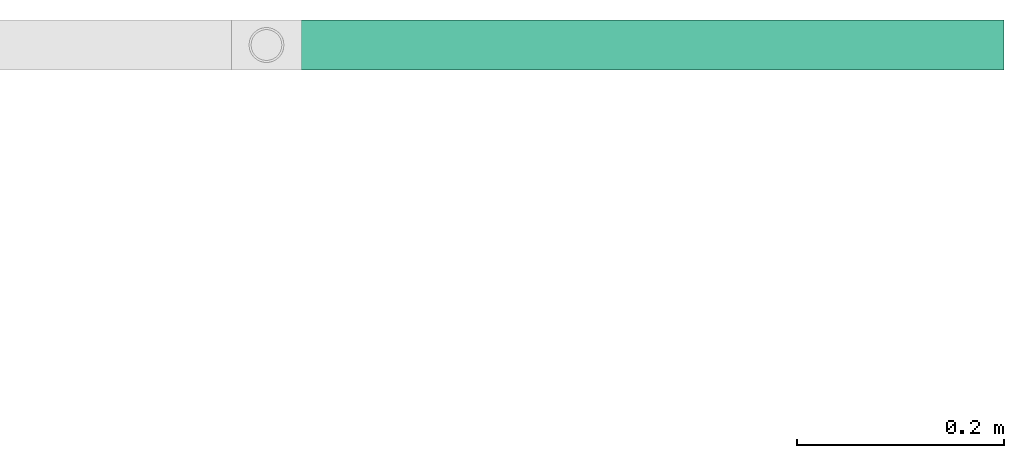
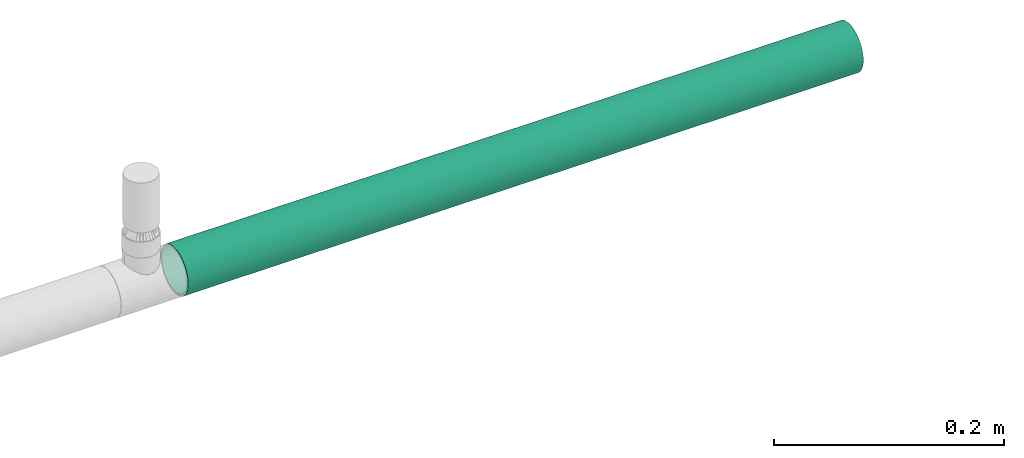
# One storey, part 14 of 14: 1 flow segment.
"""IFC2X3 building model written with IfcOpenShell, lengths in millimetres."""

from ifc_helpers import new_model, entity, si_unit, converted_unit, derived_unit, direction, frame, place, context, subcontext, project, spatial, faceted_brep, type_object, element, save


model = new_model("IFC2X3")

# Units and contexts
model_context = context("Model", 3, precision=0.01, world=frame((0.0, 4.29681676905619e-09, 0.0)), true_north=direction((4.01073788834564e-13, 1.0)))
plan_context = context("Plan", 3, precision=0.01, world=frame((0.0, 4.29681676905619e-09, 0.0)), true_north=direction((4.01073788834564e-13, 1.0)))
body_context = subcontext(model_context, "Body", "Model", "MODEL_VIEW")
ifc_project = project(units=[converted_unit("PLANEANGLEUNIT", "DEGREE", entity("IfcPositiveLengthMeasure", 0.0174532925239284), si_unit("PLANEANGLEUNIT", "RADIAN"), dimensions=[0, 0, 0, 0, 0, 0, 0]), si_unit("AREAUNIT", "SQUARE_METRE"), si_unit("LENGTHUNIT", "METRE", prefix="MILLI"), si_unit("MASSUNIT", "GRAM", prefix="KILO"), si_unit("POWERUNIT", "WATT"), si_unit("PRESSUREUNIT", "PASCAL", prefix="KILO"), si_unit("FORCEUNIT", "NEWTON", prefix="KILO"), si_unit("ELECTRICVOLTAGEUNIT", "VOLT"), si_unit("ELECTRICCURRENTUNIT", "AMPERE"), si_unit("THERMODYNAMICTEMPERATUREUNIT", "DEGREE_CELSIUS"), si_unit("TIMEUNIT", "SECOND"), si_unit("VOLUMEUNIT", "CUBIC_METRE"), derived_unit("LINEARVELOCITYUNIT", [(si_unit("LENGTHUNIT", "METRE"), 1), (si_unit("TIMEUNIT", "SECOND"), -1)]), derived_unit("VOLUMETRICFLOWRATEUNIT", [(si_unit("VOLUMEUNIT", "CUBIC_METRE"), 1), (si_unit("TIMEUNIT", "SECOND"), -1)]), derived_unit("THERMALTRANSMITTANCEUNIT", [(si_unit("POWERUNIT", "WATT"), 1), (si_unit("THERMODYNAMICTEMPERATUREUNIT", "KELVIN"), -1), (si_unit("AREAUNIT", "SQUARE_METRE"), -1)]), derived_unit("SOUNDPRESSUREUNIT", [(si_unit("PRESSUREUNIT", "PASCAL"), 1)])], contexts=[model_context, plan_context])

# Site, building, storey
site_placement = place(None, frame((0.0, -4.29681676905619e-09, 0.0), z_axis=(0.0, 0.0, 1.0), x_axis=(1.0, 0.0, 0.0)))
site = spatial("IfcSite", under=ifc_project, at=site_placement, CompositionType="ELEMENT")
building_placement = place(site_placement, frame((0.0, 4.29681676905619e-09, 0.0), z_axis=(0.0, 0.0, 1.0), x_axis=(1.0, 0.0, 0.0)))
building = spatial("IfcBuilding", under=site, at=building_placement, Name="mc-building", CompositionType="ELEMENT")
storey_placement = place(building_placement, frame((0.0, 0.0, 204000.0), z_axis=(0.0, 0.0, 1.0), x_axis=(1.0, 0.0, 0.0)))
storey = spatial("IfcBuildingStorey", under=building, at=storey_placement, Name="Nivå D", CompositionType="ELEMENT", Elevation=204000.0)

# Flow segment
pipe_segment_type = type_object("IfcPipeSegmentType", Name="Stålrør normaltykke", PredefinedType="RIGIDSEGMENT")
flow_segment_placement = place(storey_placement, frame((604175.9209, 576802.46783, 6055.58090999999), z_axis=(0.0, 0.0, 1.0), x_axis=(-1.0, 0.0, 0.0)))
element("IfcFlowSegment", 1, at=flow_segment_placement, inside=storey, type_object=pipe_segment_type, Name="Stålrør normaltykke", context=body_context, shape_type="Brep", body=[
    faceted_brep([(2402.9832714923, 21.7642513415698, -3.83762472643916), (2402.9832714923, 22.1, 0.0), (3082.4, 22.1, 0.0), (3082.4, 21.7642513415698, -3.83762472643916), (2402.9832714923, 20.7672069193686, -7.5586451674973), (3082.4, 20.7672069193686, -7.5586451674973), (2402.9832714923, 19.1391614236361, -11.05), (3082.4, 19.1391614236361, -11.05), (2402.9832714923, 16.9295821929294, -14.2056061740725), (3082.4, 16.9295821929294, -14.2056061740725), (2402.9832714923, 14.2056061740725, -16.9295821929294), (3082.4, 14.2056061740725, -16.9295821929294), (2402.9832714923, 11.05, -19.1391614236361), (3082.4, 11.05, -19.1391614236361), (2402.9832714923, 7.55864516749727, -20.7672069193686), (3082.4, 7.55864516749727, -20.7672069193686), (2402.9832714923, 3.83762472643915, -21.7642513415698), (3082.4, 3.83762472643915, -21.7642513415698), (2402.9832714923, -4.05970413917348e-15, -22.1), (3082.4, -4.05970413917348e-15, -22.1), (2402.9832714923, -3.83762472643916, -21.7642513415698), (3082.4, -3.83762472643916, -21.7642513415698), (2402.9832714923, -7.55864516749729, -20.7672069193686), (3082.4, -7.55864516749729, -20.7672069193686), (2402.9832714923, -11.05, -19.1391614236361), (3082.4, -11.05, -19.1391614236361), (2402.9832714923, -14.2056061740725, -16.9295821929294), (3082.4, -14.2056061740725, -16.9295821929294), (2402.9832714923, -16.9295821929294, -14.2056061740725), (3082.4, -16.9295821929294, -14.2056061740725), (2402.9832714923, -19.1391614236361, -11.05), (3082.4, -19.1391614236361, -11.05), (2402.9832714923, -20.7672069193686, -7.55864516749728), (3082.4, -20.7672069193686, -7.55864516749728), (2402.9832714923, -21.7642513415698, -3.83762472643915), (3082.4, -21.7642513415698, -3.83762472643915), (2402.9832714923, -22.1, 2.70646942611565e-15), (3082.4, -22.1, 2.70646942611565e-15), (2402.9832714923, -21.7642513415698, 3.83762472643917), (3082.4, -21.7642513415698, 3.83762472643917), (2402.9832714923, -20.7672069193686, 7.55864516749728), (3082.4, -20.7672069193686, 7.55864516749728), (2402.9832714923, -19.1391614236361, 11.05), (3082.4, -19.1391614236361, 11.05), (2402.9832714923, -16.9295821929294, 14.2056061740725), (3082.4, -16.9295821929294, 14.2056061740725), (2402.9832714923, -14.2056061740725, 16.9295821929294), (3082.4, -14.2056061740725, 16.9295821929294), (2402.9832714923, -11.05, 19.1391614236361), (3082.4, -11.05, 19.1391614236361), (2402.9832714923, -7.55864516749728, 20.7672069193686), (3082.4, -7.55864516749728, 20.7672069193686), (2402.9832714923, -3.83762472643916, 21.7642513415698), (3082.4, -3.83762472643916, 21.7642513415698), (2402.9832714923, 1.35323471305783e-15, 22.1), (3082.4, 1.35323471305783e-15, 22.1), (2402.9832714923, 3.83762472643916, 21.7642513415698), (3082.4, 3.83762472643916, 21.7642513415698), (2402.9832714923, 7.55864516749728, 20.7672069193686), (3082.4, 7.55864516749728, 20.7672069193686), (2402.9832714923, 11.05, 19.1391614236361), (3082.4, 11.05, 19.1391614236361), (2402.9832714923, 14.2056061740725, 16.9295821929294), (3082.4, 14.2056061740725, 16.9295821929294), (2402.9832714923, 16.9295821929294, 14.2056061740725), (3082.4, 16.9295821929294, 14.2056061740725), (2402.9832714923, 19.1391614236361, 11.05), (3082.4, 19.1391614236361, 11.05), (2402.9832714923, 20.7672069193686, 7.55864516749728), (3082.4, 20.7672069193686, 7.55864516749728), (2402.9832714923, 21.7642513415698, 3.83762472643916), (3082.4, 21.7642513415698, 3.83762472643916), (2402.9832714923, 24.1, 0.0), (2402.9832714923, 23.7338668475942, -4.18492108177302), (3082.4, 23.7338668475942, -4.18492108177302), (3082.4, 24.1, 0.0), (2402.9832714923, 23.7338668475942, 4.18492108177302), (3082.4, 23.7338668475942, 4.18492108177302), (2402.9832714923, 22.6465921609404, 8.24268545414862), (3082.4, 22.6465921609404, 8.24268545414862), (2402.9832714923, 20.871212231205, 12.05), (3082.4, 20.871212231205, 12.05), (2402.9832714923, 18.4616710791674, 15.4911813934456), (3082.4, 18.4616710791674, 15.4911813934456), (2402.9832714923, 15.4911813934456, 18.4616710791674), (3082.4, 15.4911813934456, 18.4616710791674), (2402.9832714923, 12.05, 20.871212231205), (3082.4, 12.05, 20.871212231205), (2402.9832714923, 8.24268545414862, 22.6465921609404), (3082.4, 8.24268545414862, 22.6465921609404), (2402.9832714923, 4.18492108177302, 23.7338668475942), (3082.4, 4.18492108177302, 23.7338668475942), (2402.9832714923, 1.47569939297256e-15, 24.1), (3082.4, 1.47569939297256e-15, 24.1), (2402.9832714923, -4.18492108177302, 23.7338668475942), (3082.4, -4.18492108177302, 23.7338668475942), (2402.9832714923, -8.24268545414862, 22.6465921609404), (3082.4, -8.24268545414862, 22.6465921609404), (2402.9832714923, -12.05, 20.871212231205), (3082.4, -12.05, 20.871212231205), (2402.9832714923, -15.4911813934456, 18.4616710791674), (3082.4, -15.4911813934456, 18.4616710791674), (2402.9832714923, -18.4616710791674, 15.4911813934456), (3082.4, -18.4616710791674, 15.4911813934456), (2402.9832714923, -20.871212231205, 12.05), (3082.4, -20.871212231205, 12.05), (2402.9832714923, -22.6465921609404, 8.24268545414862), (3082.4, -22.6465921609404, 8.24268545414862), (2402.9832714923, -23.7338668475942, 4.18492108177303), (3082.4, -23.7338668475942, 4.18492108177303), (2402.9832714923, -24.1, 2.95139878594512e-15), (3082.4, -24.1, 2.95139878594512e-15), (2402.9832714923, -23.7338668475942, -4.18492108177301), (3082.4, -23.7338668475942, -4.18492108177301), (2402.9832714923, -22.6465921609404, -8.24268545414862), (3082.4, -22.6465921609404, -8.24268545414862), (2402.9832714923, -20.871212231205, -12.05), (3082.4, -20.871212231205, -12.05), (2402.9832714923, -18.4616710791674, -15.4911813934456), (3082.4, -18.4616710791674, -15.4911813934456), (2402.9832714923, -15.4911813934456, -18.4616710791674), (3082.4, -15.4911813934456, -18.4616710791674), (2402.9832714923, -12.05, -20.871212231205), (3082.4, -12.05, -20.871212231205), (2402.9832714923, -8.24268545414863, -22.6465921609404), (3082.4, -8.24268545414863, -22.6465921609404), (2402.9832714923, -4.18492108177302, -23.7338668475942), (3082.4, -4.18492108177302, -23.7338668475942), (2402.9832714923, -4.42709817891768e-15, -24.1), (3082.4, -4.42709817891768e-15, -24.1), (2402.9832714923, 4.18492108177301, -23.7338668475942), (3082.4, 4.18492108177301, -23.7338668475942), (2402.9832714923, 8.2426854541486, -22.6465921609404), (3082.4, 8.2426854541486, -22.6465921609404), (2402.9832714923, 12.05, -20.871212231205), (3082.4, 12.05, -20.871212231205), (2402.9832714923, 15.4911813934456, -18.4616710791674), (3082.4, 15.4911813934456, -18.4616710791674), (2402.9832714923, 18.4616710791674, -15.4911813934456), (3082.4, 18.4616710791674, -15.4911813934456), (2402.9832714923, 20.871212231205, -12.05), (3082.4, 20.871212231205, -12.05), (2402.9832714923, 22.6465921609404, -8.24268545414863), (3082.4, 22.6465921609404, -8.24268545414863)], [[[0, 1, 2, 3]], [[4, 0, 3, 5]], [[6, 4, 5, 7]], [[8, 6, 7, 9]], [[10, 8, 9, 11]], [[12, 10, 11, 13]], [[14, 12, 13, 15]], [[16, 14, 15, 17]], [[18, 16, 17, 19]], [[20, 18, 19, 21]], [[22, 20, 21, 23]], [[24, 22, 23, 25]], [[26, 24, 25, 27]], [[28, 26, 27, 29]], [[30, 28, 29, 31]], [[32, 30, 31, 33]], [[34, 32, 33, 35]], [[36, 34, 35, 37]], [[38, 36, 37, 39]], [[40, 38, 39, 41]], [[42, 40, 41, 43]], [[44, 42, 43, 45]], [[46, 44, 45, 47]], [[48, 46, 47, 49]], [[50, 48, 49, 51]], [[52, 50, 51, 53]], [[54, 52, 53, 55]], [[56, 54, 55, 57]], [[58, 56, 57, 59]], [[60, 58, 59, 61]], [[62, 60, 61, 63]], [[64, 62, 63, 65]], [[66, 64, 65, 67]], [[68, 66, 67, 69]], [[70, 68, 69, 71]], [[1, 70, 71, 2]], [[72, 73, 74, 75]], [[76, 72, 75, 77]], [[78, 76, 77, 79]], [[80, 78, 79, 81]], [[82, 80, 81, 83]], [[84, 82, 83, 85]], [[86, 84, 85, 87]], [[88, 86, 87, 89]], [[90, 88, 89, 91]], [[92, 90, 91, 93]], [[94, 92, 93, 95]], [[96, 94, 95, 97]], [[98, 96, 97, 99]], [[100, 98, 99, 101]], [[102, 100, 101, 103]], [[104, 102, 103, 105]], [[106, 104, 105, 107]], [[108, 106, 107, 109]], [[110, 108, 109, 111]], [[112, 110, 111, 113]], [[114, 112, 113, 115]], [[116, 114, 115, 117]], [[118, 116, 117, 119]], [[120, 118, 119, 121]], [[122, 120, 121, 123]], [[124, 122, 123, 125]], [[126, 124, 125, 127]], [[128, 126, 127, 129]], [[130, 128, 129, 131]], [[132, 130, 131, 133]], [[134, 132, 133, 135]], [[136, 134, 135, 137]], [[138, 136, 137, 139]], [[140, 138, 139, 141]], [[142, 140, 141, 143]], [[73, 142, 143, 74]], [[75, 74, 143, 141, 139, 137, 135, 133, 131, 129, 127, 125, 123, 121, 119, 117, 115, 113, 111, 109, 107, 105, 103, 101, 99, 97, 95, 93, 91, 89, 87, 85, 83, 81, 79, 77], [2, 71, 69, 67, 65, 63, 61, 59, 57, 55, 53, 51, 49, 47, 45, 43, 41, 39, 37, 35, 33, 31, 29, 27, 25, 23, 21, 19, 17, 15, 13, 11, 9, 7, 5, 3]], [[76, 78, 80, 82, 84, 86, 88, 90, 92, 94, 96, 98, 100, 102, 104, 106, 108, 110, 112, 114, 116, 118, 120, 122, 124, 126, 128, 130, 132, 134, 136, 138, 140, 142, 73, 72], [4, 6, 8, 10, 12, 14, 16, 18, 20, 22, 24, 26, 28, 30, 32, 34, 36, 38, 40, 42, 44, 46, 48, 50, 52, 54, 56, 58, 60, 62, 64, 66, 68, 70, 1, 0]]], orient=[[False], [False], [False], [False], [False], [False], [False], [False], [False], [False], [False], [False], [False], [False], [False], [False], [False], [False], [False], [False], [False], [False], [False], [False], [False], [False], [False], [False], [False], [False], [False], [False], [False], [False], [False], [False], [False], [False], [False], [False], [False], [False], [False], [False], [False], [False], [False], [False], [False], [False], [False], [False], [False], [False], [False], [False], [False], [False], [False], [False], [False], [False], [False], [False], [False], [False], [False], [False], [False], [False], [False], [False], [False, False], [False, False]]),
])

save(model, "model.ifc")
